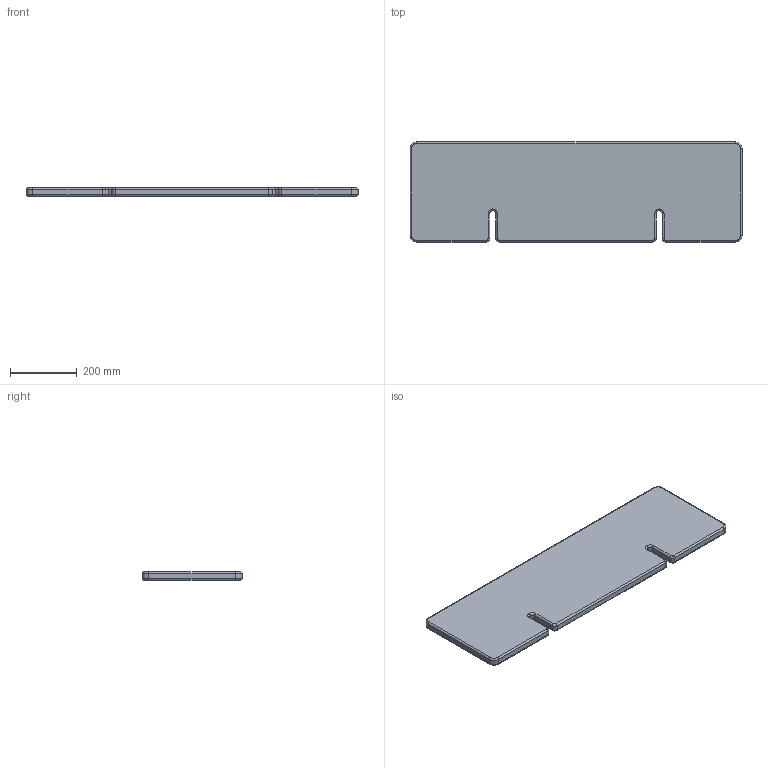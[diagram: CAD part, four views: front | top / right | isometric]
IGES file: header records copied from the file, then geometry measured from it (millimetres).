
Start section: 3D InterOp IGES (Version 23 0 1), Spatial Corp. Copyright (c) 1999-2007.
Global section: file name: Tablette.igs; native system: Spatial Corp.; preprocessor: 3D InterOp GENERIC/IGES 3.0; author: Noname; organization: Noname; date: 20130608.084917; units: millimetre
Bounding box: 996 x 300 x 25 mm (x, y, z)
Surface area: 649862.7 mm2 (no closed solid volume)
Topology: 0 solids, 0 shells, 68 faces, 308 edges, 308 vertices
Faces by surface type: revolution 56, extrusion 12
